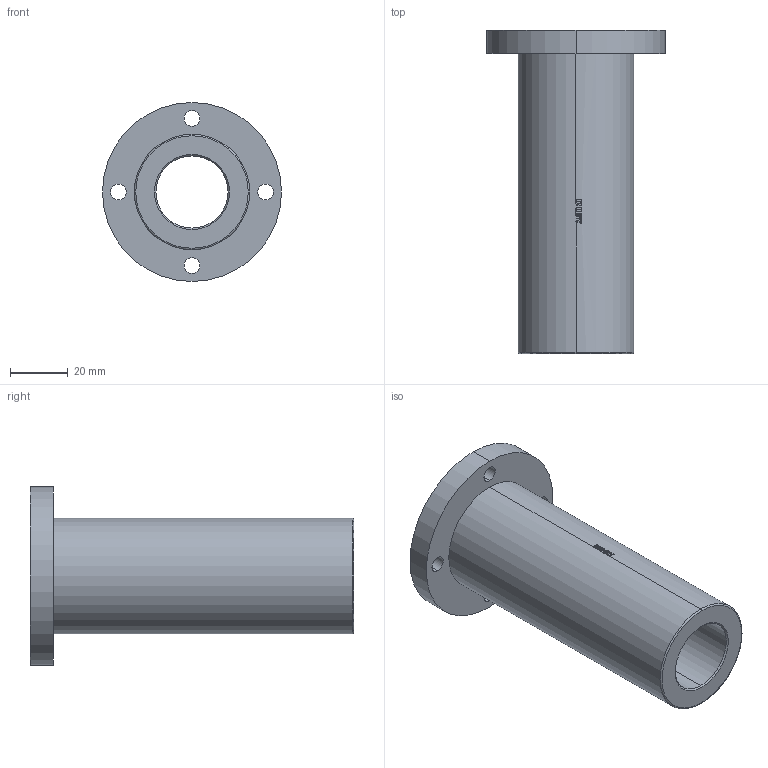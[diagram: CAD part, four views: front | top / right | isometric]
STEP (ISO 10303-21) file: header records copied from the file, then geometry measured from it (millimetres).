
FILE_DESCRIPTION (( 'STEP AP203' ), '1' );
FILE_NAME ('LMF25LUU.STEP', '2017-08-10T13:16:32', ( '' ), ( '' ), 'SwSTEP 2.0', 'SolidWorks 2017', '' );
FILE_SCHEMA (( 'CONFIG_CONTROL_DESIGN' ));
Length unit declared in the file: millimetre
Products named in the file (1): LMF25LUU
Bounding box: 62 x 112 x 62 mm (x, y, z)
Volume: 99084.8 mm3; surface area: 28808.5 mm2
Topology: 1 solids, 1 shells, 110 faces, 304 edges, 198 vertices
Faces by surface type: plane 48, bspline 32, cylinder 26, cone 2, torus 2
Entity records: 7297 total; most frequent: CARTESIAN_POINT 4661, ORIENTED_EDGE 608, DIRECTION 421, EDGE_CURVE 304, VERTEX_POINT 198, AXIS2_PLACEMENT_3D 165, B_SPLINE_CURVE_WITH_KNOTS 127, EDGE_LOOP 122
